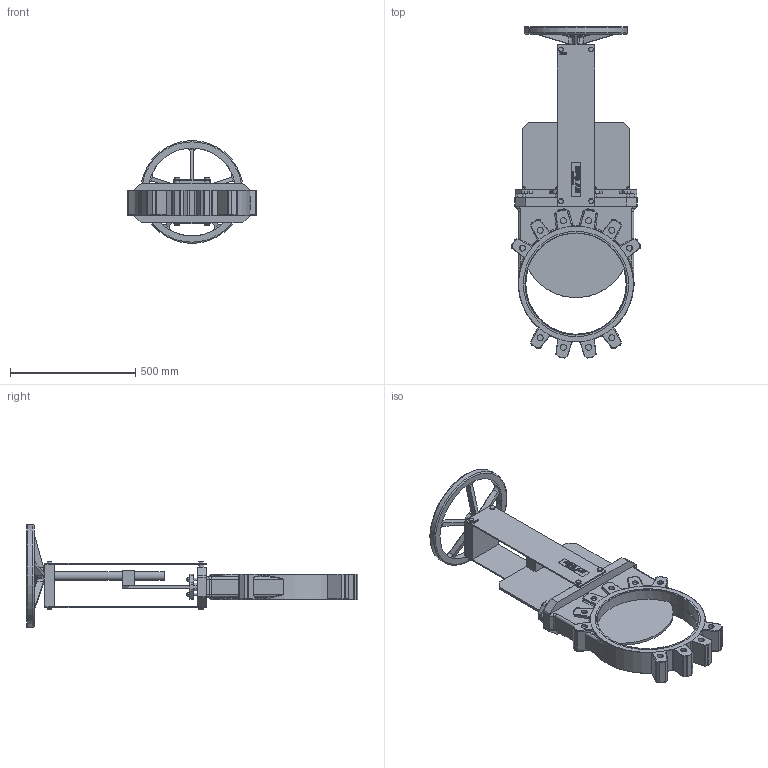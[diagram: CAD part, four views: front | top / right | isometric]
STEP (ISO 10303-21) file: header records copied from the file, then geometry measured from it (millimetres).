
FILE_DESCRIPTION((''),'2;1');
FILE_NAME('Z:\Kunder\BPS\BPS Produkter\BPS 2015\DN 400\Ritningar\BPS 2015400.stp','2012-12-28T10:58:11',('James'),(''),'Autodesk Inventor 2013','Autodesk Inventor 2013','');
FILE_SCHEMA(('AUTOMOTIVE_DESIGN { 1 2 10303 214 0 1 1 1 }'));
Length unit declared in the file: millimetre
Products named in the file (2): BPS 2015400 (SubstituteLevelofDetail1); BPS 2015400
Assembly tree (1 placements, depth 2):
  BPS 2015400 (SubstituteLevelofDetail1)
    BPS 2015400
Bounding box: 512.83 x 1322.78 x 410 mm (x, y, z)
Volume: 19908272.8 mm3; surface area: 1906305.8 mm2
Topology: 2 solids, 14 shells, 1534 faces, 3698 edges, 2297 vertices
Faces by surface type: plane 701, cylinder 413, bspline 208, torus 87, sphere 68, cone 57
Full cylindrical faces by diameter (mm): 8 x2, 10 x20, 12 x8, 13 x8, 16.63 x8, 20 x2, 24 x20, 35 x3, 350 x1, 400 x1, 405 x1, 410 x1
Entity records: 53398 total; most frequent: CARTESIAN_POINT 17589, ORIENTED_EDGE 7142, DIRECTION 6710, EDGE_CURVE 3571, AXIS2_PLACEMENT_3D 2375, VERTEX_POINT 2273, VECTOR 1960, LINE 1960
